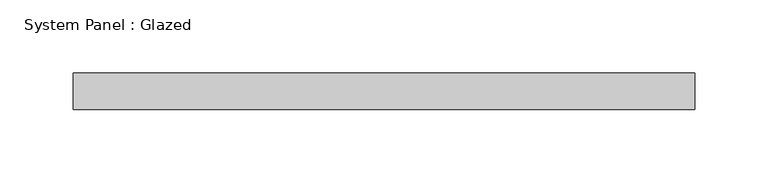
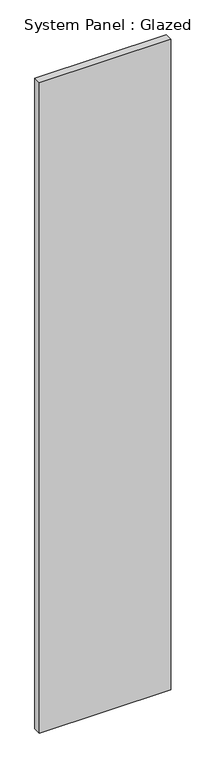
"""IFC4 building model written with IfcOpenShell, lengths in millimetres: plate geometry, System Panel : Glazed."""

import ifcopenshell
import ifcopenshell.guid

model = None  # the IFC model being written
_history = None  # IfcOwnerHistory: only IFC2X3 demands one
_inside = {}  # id of a spatial element -> (the spatial element, [elements in it])
_under = {}  # id of a project, library or spatial element -> (it, [spatial elements below it])
_declared = {}  # id of a project -> (the project, [libraries it declares])
_typed = {}  # id of a type object -> (the type object, [elements of that type])
_made_of = {}  # id of a material, layer set ... -> (it, [elements and type objects made of it])


def new_model(schema):
    """Start an empty IFC model of exactly this schema.

    Asked for "IFC4X3", IfcOpenShell would pick the latest addendum, in which some entities
    have other attributes; the version numbers below select the first issue.
    IFC2X3 requires an IfcOwnerHistory on every rooted entity: one is made here for all.
    """
    global model, _history
    if schema == "IFC4X3":
        model = ifcopenshell.file(schema_version=(4, 3, 0, 0))
    else:
        model = ifcopenshell.file(schema=schema)
    _inside.clear()
    _under.clear()
    _declared.clear()
    _typed.clear()
    _made_of.clear()
    _history = None
    if model.schema == "IFC2X3":
        org = make("IfcOrganization", Name="unknown")
        user = make(
            "IfcPersonAndOrganization",
            ThePerson=make("IfcPerson", FamilyName="unknown"),
            TheOrganization=org,
        )
        app = make(
            "IfcApplication",
            ApplicationDeveloper=org,
            Version="unknown",
            ApplicationFullName="unknown",
            ApplicationIdentifier="unknown",
        )
        _history = make(
            "IfcOwnerHistory",
            OwningUser=user,
            OwningApplication=app,
            ChangeAction="ADDED",
            CreationDate=0,
        )
    return model


def make(cls, **values):
    """One entity of the class cls with the attributes given. An attribute that is None is left unset."""
    return model.create_entity(
        cls, **{name: value for name, value in values.items() if value is not None}
    )


def rooted(cls, **values):
    """An entity with a GlobalId (a new one), such as an element, a storey or a relation."""
    return make(cls, GlobalId=ifcopenshell.guid.new(), OwnerHistory=_history, **values)


def si_unit(unit_type, name, prefix=None):
    """IfcSIUnit, for example si_unit("LENGTHUNIT", "METRE", prefix="MILLI")."""
    return make("IfcSIUnit", UnitType=unit_type, Prefix=prefix, Name=name)


def assignment(units):
    """IfcUnitAssignment: the units of a project."""
    return None if units is None else make("IfcUnitAssignment", Units=units)


def point(xyz):
    """IfcCartesianPoint."""
    return None if xyz is None else make("IfcCartesianPoint", Coordinates=xyz)


def direction(xyz):
    """IfcDirection."""
    return None if xyz is None else make("IfcDirection", DirectionRatios=xyz)


def frame(location, z_axis=None, x_axis=None):
    """IfcAxis2Placement3D, a coordinate frame: its origin and axes. An axis left out is left unset."""
    return make(
        "IfcAxis2Placement3D",
        Location=point(location),
        Axis=direction(z_axis),
        RefDirection=direction(x_axis),
    )


def origin():
    """The frame at (0, 0, 0) with its axes left unset."""
    return frame((0.0, 0.0, 0.0))


def origin_with_axes():
    """The frame at (0, 0, 0) with the z axis (0, 0, 1) and the x axis (1, 0, 0) written out."""
    return frame((0.0, 0.0, 0.0), z_axis=(0.0, 0.0, 1.0), x_axis=(1.0, 0.0, 0.0))


def place(relative_to, where):
    """IfcLocalPlacement: puts the frame where relative to a parent placement (None: the world)."""
    return make(
        "IfcLocalPlacement", PlacementRelTo=relative_to, RelativePlacement=where
    )


def context(
    kind, dimensions, precision=None, world=None, true_north=None, identifier=None
):
    """IfcGeometricRepresentationContext, for example the 3D "Model" context."""
    return make(
        "IfcGeometricRepresentationContext",
        ContextIdentifier=identifier,
        ContextType=kind,
        CoordinateSpaceDimension=dimensions,
        Precision=precision,
        WorldCoordinateSystem=world,
        TrueNorth=true_north,
    )


def project(units=None, contexts=None):
    """IfcProject with its units and contexts."""
    return rooted(
        "IfcProject",
        Name="project",
        RepresentationContexts=contexts,
        UnitsInContext=assignment(units),
    )


def spatial(cls, under=None, at=None, **own):
    """A site, building, storey or space (cls), placed at a placement, below another one or the project."""
    s = rooted(cls, ObjectPlacement=at, **own)
    if under is not None:
        _under.setdefault(under.id(), (under, []))[1].append(s)
    return s


def polyline(points):
    """IfcPolyline through the points."""
    return make("IfcPolyline", Points=[point(p) for p in points])


def outline(outer, holes=None, kind="AREA"):
    """IfcArbitraryClosedProfileDef: a profile drawn as a closed curve; with holes, ...WithVoids."""
    if holes is None:
        return make("IfcArbitraryClosedProfileDef", ProfileType=kind, OuterCurve=outer)
    return make(
        "IfcArbitraryProfileDefWithVoids",
        ProfileType=kind,
        OuterCurve=outer,
        InnerCurves=holes,
    )


def extrude(swept, where, along, depth):
    """IfcExtrudedAreaSolid: the profile swept, set in the frame where, extruded along a direction by depth."""
    return make(
        "IfcExtrudedAreaSolid",
        SweptArea=swept,
        Position=where,
        ExtrudedDirection=direction(along),
        Depth=depth,
    )


def shape(context_of_items, identifier, shape_type, items):
    """IfcShapeRepresentation: the items that make up one representation, for example the "Body"."""
    return make(
        "IfcShapeRepresentation",
        ContextOfItems=context_of_items,
        RepresentationIdentifier=identifier,
        RepresentationType=shape_type,
        Items=items,
    )


def source(mapping_origin, context_of_items, identifier, shape_type, items):
    """IfcRepresentationMap: a shape defined once, which mapped items show again and again."""
    return make(
        "IfcRepresentationMap",
        MappingOrigin=mapping_origin,
        MappedRepresentation=shape(context_of_items, identifier, shape_type, items),
    )


def transform(
    local_origin,
    x_axis=None,
    y_axis=None,
    z_axis=None,
    scale=None,
    scale2=None,
    scale3=None,
    uniform=True,
):
    """IfcCartesianTransformationOperator3D, or its non-uniform kind. x_axis, y_axis, z_axis: its Axis1, 2, 3."""
    if uniform:
        return make(
            "IfcCartesianTransformationOperator3D",
            Axis1=direction(x_axis),
            Axis2=direction(y_axis),
            LocalOrigin=point(local_origin),
            Scale=scale,
            Axis3=direction(z_axis),
        )
    return make(
        "IfcCartesianTransformationOperator3DnonUniform",
        Axis1=direction(x_axis),
        Axis2=direction(y_axis),
        LocalOrigin=point(local_origin),
        Scale=scale,
        Axis3=direction(z_axis),
        Scale2=scale2,
        Scale3=scale3,
    )


def mapped(mapping_source, mapping_target):
    """IfcMappedItem: shows the shape of a source again, moved by a transform."""
    return make(
        "IfcMappedItem", MappingSource=mapping_source, MappingTarget=mapping_target
    )


def made_of(thing, what):
    """Note that an element or type object is made of a material, layer set ...; save() writes the relation."""
    if what is not None:
        _made_of.setdefault(what.id(), (what, []))[1].append(thing)
    return thing


def element(
    cls,
    number,
    at=None,
    inside=None,
    cuts=None,
    type_object=None,
    material=None,
    context=None,
    identifier="Body",
    shape_type=None,
    held_by="IfcProductDefinitionShape",
    body=None,
    shapes=None,
    **own,
):
    """One element of the class cls, such as IfcWall. Its Tag is "e" and its number.

    at: its placement. inside: the storey or other place that contains it. cuts: it is an
    opening in that element (IfcRelVoidsElement). A single representation is given by context,
    identifier, shape_type and body (its items); several are given by shapes. held_by: the class
    of the entity that holds the representations. save() writes the other relations.
    """
    e = rooted(cls, Tag="e%d" % number, ObjectPlacement=at, **own)
    if body is not None:
        shapes = [shape(context, identifier, shape_type, body)]
    if shapes is not None:
        e.Representation = make(held_by, Representations=shapes)
    if inside is not None:
        _inside.setdefault(inside.id(), (inside, []))[1].append(e)
    if cuts is not None:
        rooted(
            "IfcRelVoidsElement", RelatingBuildingElement=cuts, RelatedOpeningElement=e
        )
    if type_object is not None:
        _typed.setdefault(type_object.id(), (type_object, []))[1].append(e)
    return made_of(e, material)


def aggregate(whole, parts):
    """IfcRelAggregates: a whole, such as a stair, and the parts it consists of."""
    return rooted("IfcRelAggregates", RelatingObject=whole, RelatedObjects=parts)


def save(model, path):
    """Write the relations noted so far, then the file.

    IfcRelAggregates (storeys below a building ...), IfcRelContainedInSpatialStructure (elements
    in a storey), IfcRelDefinesByType, IfcRelAssociatesMaterial and IfcRelDeclares: one each for
    every whole, place, type object, material and project.
    """
    for whole, parts in _under.values():
        aggregate(whole, parts)
    for where, things in _inside.values():
        rooted(
            "IfcRelContainedInSpatialStructure",
            RelatedElements=things,
            RelatingStructure=where,
        )
    for kind, things in _typed.values():
        rooted("IfcRelDefinesByType", RelatedObjects=things, RelatingType=kind)
    for what, things in _made_of.values():
        rooted("IfcRelAssociatesMaterial", RelatedObjects=things, RelatingMaterial=what)
    for by, libraries in _declared.values():
        rooted("IfcRelDeclares", RelatingContext=by, RelatedDefinitions=libraries)
    model.write(path)


def system_panel_glazed_9309a35e(model_context):
    return source(origin(), model_context, "Body", "SweptSolid", [
        extrude(outline(polyline([(212.5000001, -49.5), (-212.5000001, -49.5), (-212.5000001, -24.5), (212.5000001, -24.5), (212.5000001, -49.5)])), origin_with_axes(), (0.0, 0.0, 1.0), 2225.0),
    ])


if __name__ == "__main__":
    model = new_model("IFC4")
    model_context = context("Model", 3, world=origin())
    ifc_project = project(units=[si_unit("LENGTHUNIT", "METRE", prefix="MILLI")], contexts=[model_context])
    site = spatial("IfcSite", under=ifc_project)
    building = spatial("IfcBuilding", under=site)
    placement = place(None, origin())
    system_panel_glazed_shape = system_panel_glazed_9309a35e(model_context)
    element("IfcPlate", 1, ObjectType="System Panel : Glazed", at=placement, inside=building, context=model_context, shape_type="MappedRepresentation", body=[
        mapped(system_panel_glazed_shape, transform((0.0, 0.0, 0.0), x_axis=(1.0, 0.0, 0.0), y_axis=(0.0, 1.0, 0.0), z_axis=(0.0, 0.0, 1.0))),
    ])
    save(model, "model.ifc")
